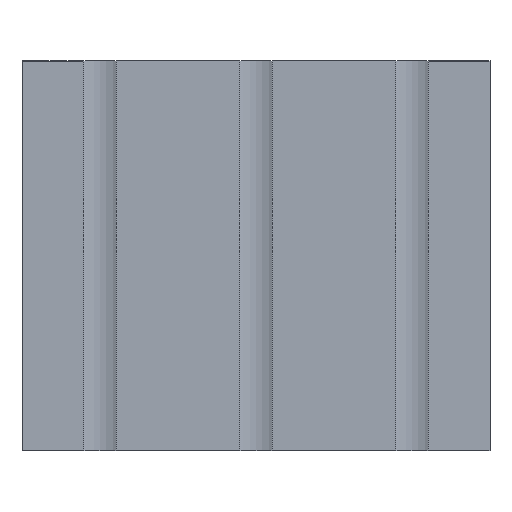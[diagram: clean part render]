
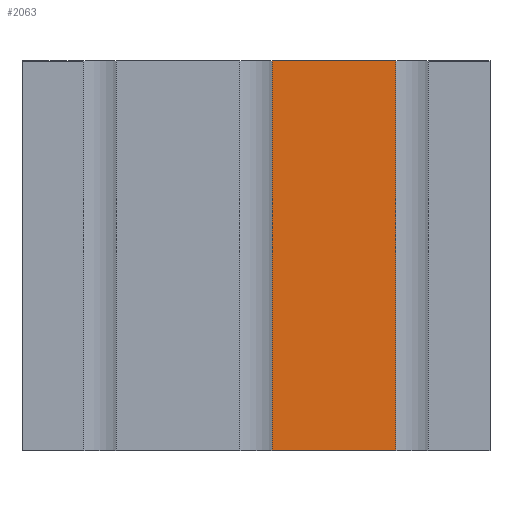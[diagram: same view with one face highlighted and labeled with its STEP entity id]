
A CAD part, front view. The second image highlights one B-rep face of the part: STEP entity #2063.
In plain terms, the highlighted planar face has unit normal (0, -1, 0).
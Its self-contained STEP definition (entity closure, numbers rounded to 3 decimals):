
#440=ORIENTED_EDGE('',*,*,#884,.F.);
#441=ORIENTED_EDGE('',*,*,#885,.F.);
#442=ORIENTED_EDGE('',*,*,#886,.T.);
#443=ORIENTED_EDGE('',*,*,#728,.F.);
#728=EDGE_CURVE('',#1017,#1018,#1206,.T.);
#884=EDGE_CURVE('',#1107,#1017,#1348,.T.);
#885=EDGE_CURVE('',#1108,#1107,#1349,.T.);
#886=EDGE_CURVE('',#1108,#1018,#1350,.T.);
#1017=VERTEX_POINT('',#2928);
#1018=VERTEX_POINT('',#2930);
#1107=VERTEX_POINT('',#3244);
#1108=VERTEX_POINT('',#3248);
#1206=LINE('',#2929,#1466);
#1348=LINE('',#3245,#1608);
#1349=LINE('',#3247,#1609);
#1350=LINE('',#3249,#1610);
#1466=VECTOR('',#2335,1000.);
#1608=VECTOR('',#2645,1000.);
#1609=VECTOR('',#2648,1000.);
#1610=VECTOR('',#2649,1000.);
#1738=EDGE_LOOP('',(#440,#441,#442,#443));
#1864=FACE_BOUND('',#1738,.T.);
#1968=PLANE('',#2201);
#2063=ADVANCED_FACE('',(#1864),#1968,.T.);
#2201=AXIS2_PLACEMENT_3D('',#3246,#2646,#2647);
#2335=DIRECTION('',(-1.,0.,0.));
#2645=DIRECTION('',(0.,0.,-1.));
#2646=DIRECTION('',(0.,-1.,0.));
#2647=DIRECTION('',(1.,0.,0.));
#2648=DIRECTION('',(1.,0.,0.));
#2649=DIRECTION('',(0.,0.,-1.));
#2928=CARTESIAN_POINT('',(35.8,-20.,-50.));
#2929=CARTESIAN_POINT('',(35.8,-20.,-50.));
#2930=CARTESIAN_POINT('',(4.2,-20.,-50.));
#3244=CARTESIAN_POINT('',(35.8,-20.,50.));
#3245=CARTESIAN_POINT('',(35.8,-20.,0.));
#3246=CARTESIAN_POINT('',(4.2,-20.,0.));
#3247=CARTESIAN_POINT('',(35.8,-20.,50.));
#3248=CARTESIAN_POINT('',(4.2,-20.,50.));
#3249=CARTESIAN_POINT('',(4.2,-20.,0.));
